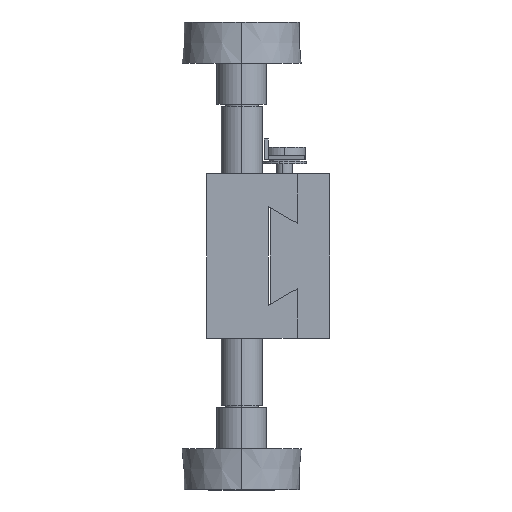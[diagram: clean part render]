
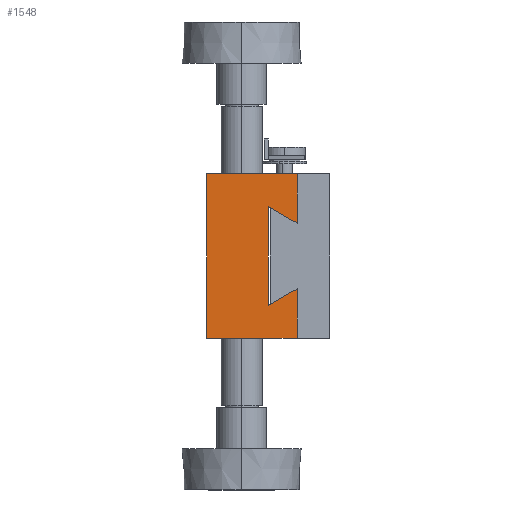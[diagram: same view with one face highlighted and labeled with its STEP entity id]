
A CAD part, left-side view. The second image highlights one B-rep face of the part: STEP entity #1548.
In plain terms, the highlighted planar face has unit normal (-1, 0, 0).
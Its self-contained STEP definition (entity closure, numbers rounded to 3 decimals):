
#216 = VERTEX_POINT ( 'NONE', #4001 ) ;
#339 = VERTEX_POINT ( 'NONE', #1616 ) ;
#356 = VERTEX_POINT ( 'NONE', #1994 ) ;
#461 = CARTESIAN_POINT ( 'NONE',  ( -20., -12.041, 15. ) ) ;
#552 = PLANE ( 'NONE',  #1935 ) ;
#601 = VECTOR ( 'NONE', #3229, 1000. ) ;
#622 = CARTESIAN_POINT ( 'NONE',  ( -20., -20., 30. ) ) ;
#648 = DIRECTION ( 'NONE',  ( 0., 1., 0. ) ) ;
#684 = VERTEX_POINT ( 'NONE', #2614 ) ;
#818 = ORIENTED_EDGE ( 'NONE', *, *, #1979, .T. ) ;
#1115 = VECTOR ( 'NONE', #2485, 1000. ) ;
#1177 = ORIENTED_EDGE ( 'NONE', *, *, #2964, .T. ) ;
#1292 = VERTEX_POINT ( 'NONE', #3058 ) ;
#1355 = DIRECTION ( 'NONE',  ( 1., 0., 0. ) ) ;
#1445 = VERTEX_POINT ( 'NONE', #2202 ) ;
#1548 = ADVANCED_FACE ( 'NONE', ( #3230 ), #552, .F. ) ;
#1616 = CARTESIAN_POINT ( 'NONE',  ( -20., 8., 8. ) ) ;
#1935 = AXIS2_PLACEMENT_3D ( 'NONE', #3718, #1355, #4129 ) ;
#1957 = ORIENTED_EDGE ( 'NONE', *, *, #3838, .T. ) ;
#1979 = EDGE_CURVE ( 'NONE', #684, #1445, #2663, .T. ) ;
#1993 = DIRECTION ( 'NONE',  ( 0., -1., 0. ) ) ;
#1994 = CARTESIAN_POINT ( 'NONE',  ( -20., 12.041, 15. ) ) ;
#2075 = CARTESIAN_POINT ( 'NONE',  ( -20., 20., 30. ) ) ;
#2088 = ORIENTED_EDGE ( 'NONE', *, *, #3975, .T. ) ;
#2093 = LINE ( 'NONE', #622, #5133 ) ;
#2142 = LINE ( 'NONE', #4745, #5053 ) ;
#2143 = EDGE_LOOP ( 'NONE', ( #3802, #1177, #4377, #1957, #2088, #4760, #2877, #818 ) ) ;
#2202 = CARTESIAN_POINT ( 'NONE',  ( -20., -20., 8. ) ) ;
#2338 = VERTEX_POINT ( 'NONE', #3520 ) ;
#2485 = DIRECTION ( 'NONE',  ( 0., 0., -1. ) ) ;
#2614 = CARTESIAN_POINT ( 'NONE',  ( -20., -8., 8. ) ) ;
#2663 = LINE ( 'NONE', #3615, #3849 ) ;
#2682 = CARTESIAN_POINT ( 'NONE',  ( -20., -12.041, 15. ) ) ;
#2736 = EDGE_CURVE ( 'NONE', #1445, #2338, #2093, .T. ) ;
#2877 = ORIENTED_EDGE ( 'NONE', *, *, #3613, .T. ) ;
#2964 = EDGE_CURVE ( 'NONE', #2338, #1292, #4390, .T. ) ;
#3011 = CARTESIAN_POINT ( 'NONE',  ( -20., -20., 30. ) ) ;
#3018 = LINE ( 'NONE', #4218, #4992 ) ;
#3058 = CARTESIAN_POINT ( 'NONE',  ( -20., 20., 30. ) ) ;
#3094 = VERTEX_POINT ( 'NONE', #2682 ) ;
#3216 = DIRECTION ( 'NONE',  ( 0., -1., 0. ) ) ;
#3229 = DIRECTION ( 'NONE',  ( 0., -1., 0. ) ) ;
#3230 = FACE_OUTER_BOUND ( 'NONE', #2143, .T. ) ;
#3390 = LINE ( 'NONE', #3657, #4441 ) ;
#3406 = EDGE_CURVE ( 'NONE', #1292, #216, #4386, .T. ) ;
#3425 = DIRECTION ( 'NONE',  ( 0., 0.5, -0.866 ) ) ;
#3520 = CARTESIAN_POINT ( 'NONE',  ( -20., -20., 30. ) ) ;
#3613 = EDGE_CURVE ( 'NONE', #3094, #684, #3018, .T. ) ;
#3615 = CARTESIAN_POINT ( 'NONE',  ( -20., -20., 8. ) ) ;
#3635 = LINE ( 'NONE', #461, #601 ) ;
#3657 = CARTESIAN_POINT ( 'NONE',  ( -20., 12.041, 15. ) ) ;
#3718 = CARTESIAN_POINT ( 'NONE',  ( -20., -20., 8. ) ) ;
#3802 = ORIENTED_EDGE ( 'NONE', *, *, #2736, .T. ) ;
#3838 = EDGE_CURVE ( 'NONE', #216, #339, #2142, .T. ) ;
#3849 = VECTOR ( 'NONE', #3216, 1000. ) ;
#3914 = EDGE_CURVE ( 'NONE', #356, #3094, #3635, .T. ) ;
#3975 = EDGE_CURVE ( 'NONE', #339, #356, #3390, .T. ) ;
#4001 = CARTESIAN_POINT ( 'NONE',  ( -20., 20., 8. ) ) ;
#4073 = DIRECTION ( 'NONE',  ( 0., 0.5, 0.866 ) ) ;
#4129 = DIRECTION ( 'NONE',  ( 0., -1., 0. ) ) ;
#4218 = CARTESIAN_POINT ( 'NONE',  ( -20., -8., 8. ) ) ;
#4266 = VECTOR ( 'NONE', #648, 1000. ) ;
#4377 = ORIENTED_EDGE ( 'NONE', *, *, #3406, .T. ) ;
#4386 = LINE ( 'NONE', #2075, #1115 ) ;
#4390 = LINE ( 'NONE', #3011, #4266 ) ;
#4441 = VECTOR ( 'NONE', #4073, 1000. ) ;
#4579 = DIRECTION ( 'NONE',  ( 0., 0., 1. ) ) ;
#4745 = CARTESIAN_POINT ( 'NONE',  ( -20., 8., 8. ) ) ;
#4760 = ORIENTED_EDGE ( 'NONE', *, *, #3914, .T. ) ;
#4992 = VECTOR ( 'NONE', #3425, 1000. ) ;
#5053 = VECTOR ( 'NONE', #1993, 1000. ) ;
#5133 = VECTOR ( 'NONE', #4579, 1000. ) ;
